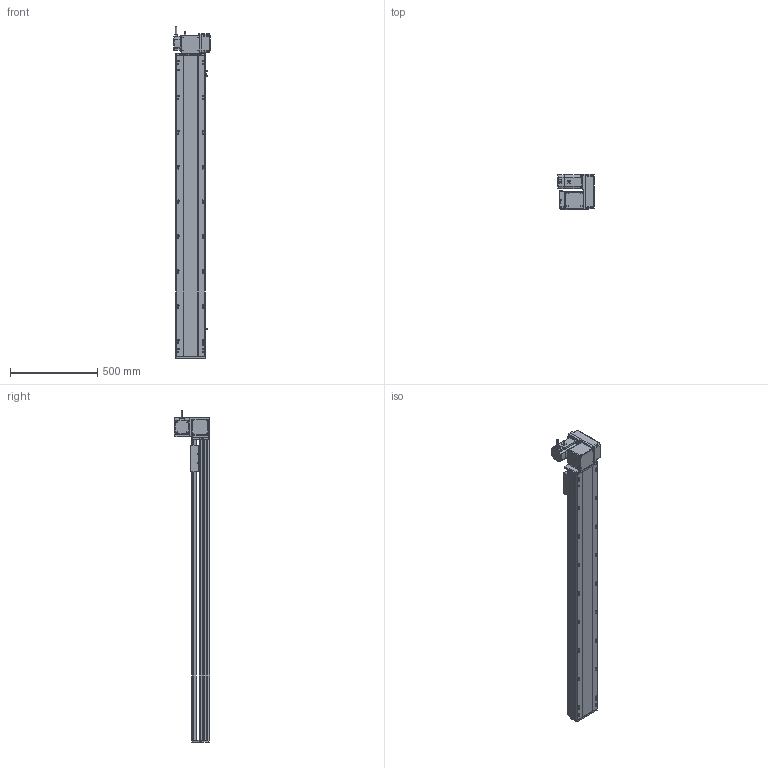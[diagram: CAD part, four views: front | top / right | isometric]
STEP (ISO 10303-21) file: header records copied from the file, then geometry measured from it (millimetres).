
FILE_DESCRIPTION (( 'STEP AP214' ), '1' );
FILE_NAME ('RTB17S-XX-1450-RW-M75-C4.STEP', '2025-12-12T02:38:46', ( '' ), ( '' ), 'SwSTEP 2.0', 'SolidWorks 2018', '' );
FILE_SCHEMA (( 'AUTOMOTIVE_DESIGN' ));
Length unit declared in the file: millimetre
Products named in the file (15): RTB22S-GY-018P^RTB17S-RW-々湍釱蚾饜-750W_RTB17S-XX-XX-RW-M75-C4; RTB22S-GY-008-M75--萇儂啣^RTB17S-RW-々湍釱蚾饜-750W_RTB17S-XX-XX-RW-M75-C4; RTB17S-賑釱^RTB17S-XX-XX-RW-M75-C4; RTB22S-GY-017P^RTB17S-RW-々湍釱蚾饜-750W_RTB17S-XX-XX-RW-M75-C4; EE672^RTB17S-XX-XX-RW-M75-C4; RTB17-R-011菁釱^RTB17S-XX-XX-RW-M75-C4; RTB17S-L-007奻裔^RTB17S-XX-XX-RW-M75-C4; RMP17S-L-014-T20-P75--々湍釱^RTB17S-RW-々湍釱蚾饜-750W_RTB17S-XX-XX-RW-M75-C4; RTB17S-L-004-賑釱^RTB17S-賑釱_RTB17S-XX-XX-RW-M75-C4; 750W萇儂^RTB17S-XX-XX-RW-M75-C4; RTB22S-GY-005P^RTB17S-RW-々湍釱蚾饜-750W_RTB17S-XX-XX-RW-M75-C4; RTB17S-XX-1450-RW-M75-C4; RTH13-BL-012覜茼え俋离^RTB17S-賑釱_RTB17S-XX-XX-RW-M75-C4; RTB17S-RW-々湍釱蚾饜-750W^RTB17S-XX-XX-RW-M75-C4; RTB17S-L-001-耜醱啣^RTB17S-XX-XX-RW-M75-C4
Assembly tree (17 placements, depth 3):
  RTB17S-XX-1450-RW-M75-C4
    RTB17-R-011菁釱^RTB17S-XX-XX-RW-M75-C4
    EE672^RTB17S-XX-XX-RW-M75-C4  x3
    RTB17S-L-001-耜醱啣^RTB17S-XX-XX-RW-M75-C4
    RTB17S-賑釱^RTB17S-XX-XX-RW-M75-C4
      RTB17S-L-004-賑釱^RTB17S-賑釱_RTB17S-XX-XX-RW-M75-C4
      RTH13-BL-012覜茼え俋离^RTB17S-賑釱_RTB17S-XX-XX-RW-M75-C4
    RTB17S-L-007奻裔^RTB17S-XX-XX-RW-M75-C4
    750W萇儂^RTB17S-XX-XX-RW-M75-C4
    RTB17S-RW-々湍釱蚾饜-750W^RTB17S-XX-XX-RW-M75-C4
      RMP17S-L-014-T20-P75--々湍釱^RTB17S-RW-々湍釱蚾饜-750W_RTB17S-XX-XX-RW-M75-C4
      RTB22S-GY-005P^RTB17S-RW-々湍釱蚾饜-750W_RTB17S-XX-XX-RW-M75-C4
      RTB22S-GY-017P^RTB17S-RW-々湍釱蚾饜-750W_RTB17S-XX-XX-RW-M75-C4  x2
      RTB22S-GY-008-M75--萇儂啣^RTB17S-RW-々湍釱蚾饜-750W_RTB17S-XX-XX-RW-M75-C4
      RTB22S-GY-018P^RTB17S-RW-々湍釱蚾饜-750W_RTB17S-XX-XX-RW-M75-C4
Bounding box: 207.4 x 201.5 x 1902.2 mm (x, y, z)
Volume: 15008918.3 mm3; surface area: 2625465.8 mm2
Topology: 17 solids, 17 shells, 2137 faces, 5944 edges, 3842 vertices
Faces by surface type: plane 976, cylinder 745, bspline 294, cone 110, sphere 8, torus 4
Entity records: 60406 total; most frequent: CARTESIAN_POINT 17808, ORIENTED_EDGE 8732, DIRECTION 8132, EDGE_CURVE 4366, AXIS2_PLACEMENT_3D 2862, VERTEX_POINT 2846, LINE 2408, VECTOR 2408
